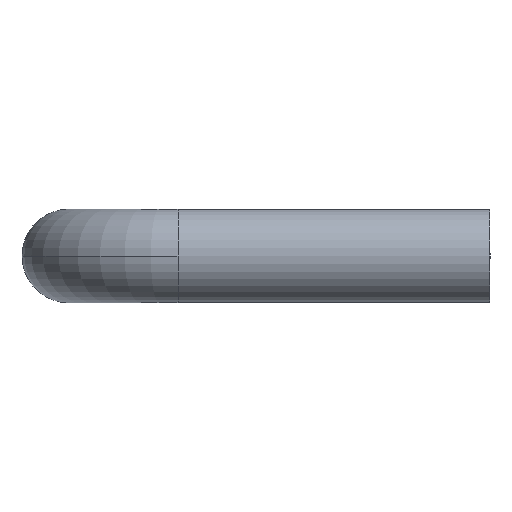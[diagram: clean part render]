
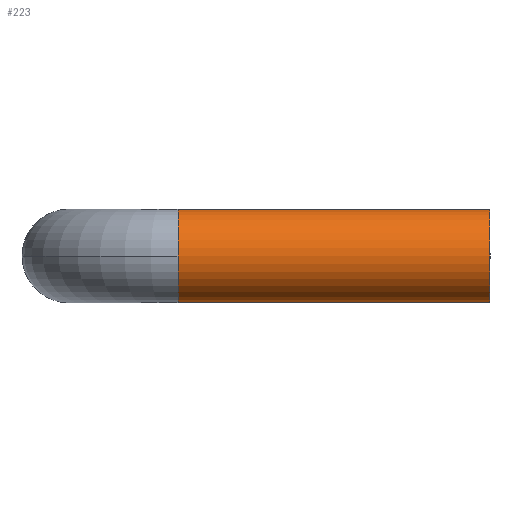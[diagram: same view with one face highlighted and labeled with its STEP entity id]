
A CAD part, left-side view. The second image highlights one B-rep face of the part: STEP entity #223.
In plain terms, the highlighted cylindrical face has radius 3 mm (diameter 6 mm), a partial arc.
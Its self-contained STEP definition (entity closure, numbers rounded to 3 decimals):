
#17 = CARTESIAN_POINT ( 'NONE',  ( 0., 20., 3. ) ) ;
#25 = CARTESIAN_POINT ( 'NONE',  ( 0., 0., 3. ) ) ;
#26 = DIRECTION ( 'NONE',  ( 0., 0., -1. ) ) ;
#29 = AXIS2_PLACEMENT_3D ( 'NONE', #60, #75, #79 ) ;
#50 = AXIS2_PLACEMENT_3D ( 'NONE', #584, #538, #26 ) ;
#60 = CARTESIAN_POINT ( 'NONE',  ( 0., 0., 0. ) ) ;
#75 = DIRECTION ( 'NONE',  ( 0., 1., 0. ) ) ;
#79 = DIRECTION ( 'NONE',  ( 0., 0., 1. ) ) ;
#92 = CIRCLE ( 'NONE', #29, 3. ) ;
#102 = VERTEX_POINT ( 'NONE', #25 ) ;
#190 = CIRCLE ( 'NONE', #616, 3. ) ;
#223 = ADVANCED_FACE ( 'NONE', ( #491 ), #490, .T. ) ;
#279 = VERTEX_POINT ( 'NONE', #611 ) ;
#286 = EDGE_CURVE ( 'NONE', #279, #569, #544, .T. ) ;
#294 = EDGE_LOOP ( 'NONE', ( #601, #594, #427, #593, #587 ) ) ;
#324 = VERTEX_POINT ( 'NONE', #549 ) ;
#335 = EDGE_CURVE ( 'NONE', #324, #341, #558, .T. ) ;
#341 = VERTEX_POINT ( 'NONE', #648 ) ;
#361 = EDGE_CURVE ( 'NONE', #569, #102, #540, .T. ) ;
#395 = DIRECTION ( 'NONE',  ( 0., 0., 1. ) ) ;
#427 = ORIENTED_EDGE ( 'NONE', *, *, #588, .F. ) ;
#490 = CYLINDRICAL_SURFACE ( 'NONE', #50, 3. ) ;
#491 = FACE_OUTER_BOUND ( 'NONE', #294, .T. ) ;
#493 = DIRECTION ( 'NONE',  ( 0., -1., 0. ) ) ;
#514 = CARTESIAN_POINT ( 'NONE',  ( 0., 20., 3. ) ) ;
#516 = DIRECTION ( 'NONE',  ( 0., -1., 0. ) ) ;
#535 = CARTESIAN_POINT ( 'NONE',  ( 0., 20., -3. ) ) ;
#538 = DIRECTION ( 'NONE',  ( 0., -1., 0. ) ) ;
#540 = LINE ( 'NONE', #514, #575 ) ;
#544 = CIRCLE ( 'NONE', #637, 3. ) ;
#549 = CARTESIAN_POINT ( 'NONE',  ( 0., 20., -3. ) ) ;
#555 = DIRECTION ( 'NONE',  ( 0., 0., 1. ) ) ;
#557 = DIRECTION ( 'NONE',  ( 0., 1., 0. ) ) ;
#558 = LINE ( 'NONE', #535, #565 ) ;
#560 = CARTESIAN_POINT ( 'NONE',  ( 0., 20., 0. ) ) ;
#565 = VECTOR ( 'NONE', #516, 1000. ) ;
#569 = VERTEX_POINT ( 'NONE', #17 ) ;
#575 = VECTOR ( 'NONE', #493, 1000. ) ;
#584 = CARTESIAN_POINT ( 'NONE',  ( 0., 20., 0. ) ) ;
#587 = ORIENTED_EDGE ( 'NONE', *, *, #635, .T. ) ;
#588 = EDGE_CURVE ( 'NONE', #324, #279, #190, .T. ) ;
#593 = ORIENTED_EDGE ( 'NONE', *, *, #335, .T. ) ;
#594 = ORIENTED_EDGE ( 'NONE', *, *, #286, .F. ) ;
#601 = ORIENTED_EDGE ( 'NONE', *, *, #361, .F. ) ;
#611 = CARTESIAN_POINT ( 'NONE',  ( -3., 20., 0. ) ) ;
#616 = AXIS2_PLACEMENT_3D ( 'NONE', #665, #663, #395 ) ;
#635 = EDGE_CURVE ( 'NONE', #341, #102, #92, .T. ) ;
#637 = AXIS2_PLACEMENT_3D ( 'NONE', #560, #557, #555 ) ;
#648 = CARTESIAN_POINT ( 'NONE',  ( 0., 0., -3. ) ) ;
#663 = DIRECTION ( 'NONE',  ( 0., 1., 0. ) ) ;
#665 = CARTESIAN_POINT ( 'NONE',  ( 0., 20., 0. ) ) ;
